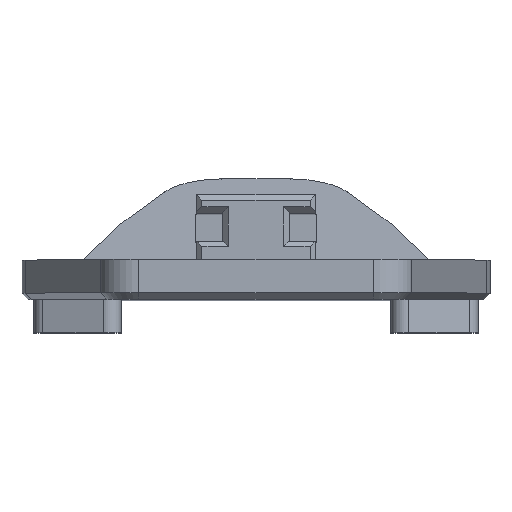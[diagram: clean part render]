
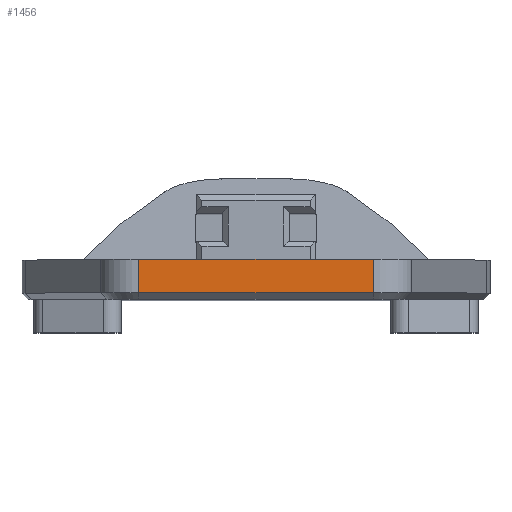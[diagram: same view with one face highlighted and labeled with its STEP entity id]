
A CAD part, top view. The second image highlights one B-rep face of the part: STEP entity #1456.
In plain terms, the highlighted planar face has unit normal (0, 0, 1).
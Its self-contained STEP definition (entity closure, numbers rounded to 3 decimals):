
#661=CARTESIAN_POINT('',(-17.732,802.04,33.));
#662=VERTEX_POINT('',#661);
#670=CARTESIAN_POINT('',(17.732,802.04,33.));
#671=VERTEX_POINT('',#670);
#672=CARTESIAN_POINT('',(17.732,802.04,33.));
#673=DIRECTION('',(-1.,-0.,0.));
#674=VECTOR('',#673,35.464);
#675=LINE('',#672,#674);
#676=EDGE_CURVE('',#671,#662,#675,.T.);
#1426=CARTESIAN_POINT('',(0.,802.04,33.));
#1427=DIRECTION('',(0.,0.,1.));
#1428=DIRECTION('',(1.,0.,0.));
#1429=AXIS2_PLACEMENT_3D('',#1426,#1427,#1428);
#1430=PLANE('',#1429);
#1431=CARTESIAN_POINT('',(-17.732,797.04,33.));
#1432=VERTEX_POINT('',#1431);
#1433=CARTESIAN_POINT('',(-17.732,802.04,33.));
#1434=DIRECTION('',(-0.,-1.,-0.));
#1435=VECTOR('',#1434,5.);
#1436=LINE('',#1433,#1435);
#1437=EDGE_CURVE('',#662,#1432,#1436,.T.);
#1438=ORIENTED_EDGE('',*,*,#1437,.T.);
#1439=CARTESIAN_POINT('',(17.732,797.04,33.));
#1440=VERTEX_POINT('',#1439);
#1441=CARTESIAN_POINT('',(-17.732,797.04,33.));
#1442=DIRECTION('',(1.,0.,-0.));
#1443=VECTOR('',#1442,35.464);
#1444=LINE('',#1441,#1443);
#1445=EDGE_CURVE('',#1432,#1440,#1444,.T.);
#1446=ORIENTED_EDGE('',*,*,#1445,.T.);
#1447=CARTESIAN_POINT('',(17.732,797.04,33.));
#1448=DIRECTION('',(0.,1.,0.));
#1449=VECTOR('',#1448,5.);
#1450=LINE('',#1447,#1449);
#1451=EDGE_CURVE('',#1440,#671,#1450,.T.);
#1452=ORIENTED_EDGE('',*,*,#1451,.T.);
#1453=ORIENTED_EDGE('',*,*,#676,.T.);
#1454=EDGE_LOOP('',(#1438,#1446,#1452,#1453));
#1455=FACE_BOUND('',#1454,.T.);
#1456=ADVANCED_FACE('',(#1455),#1430,.T.);
